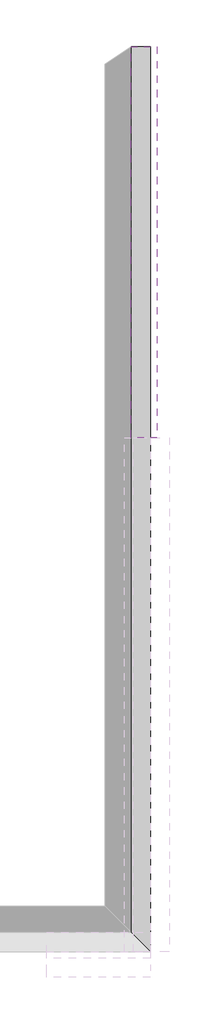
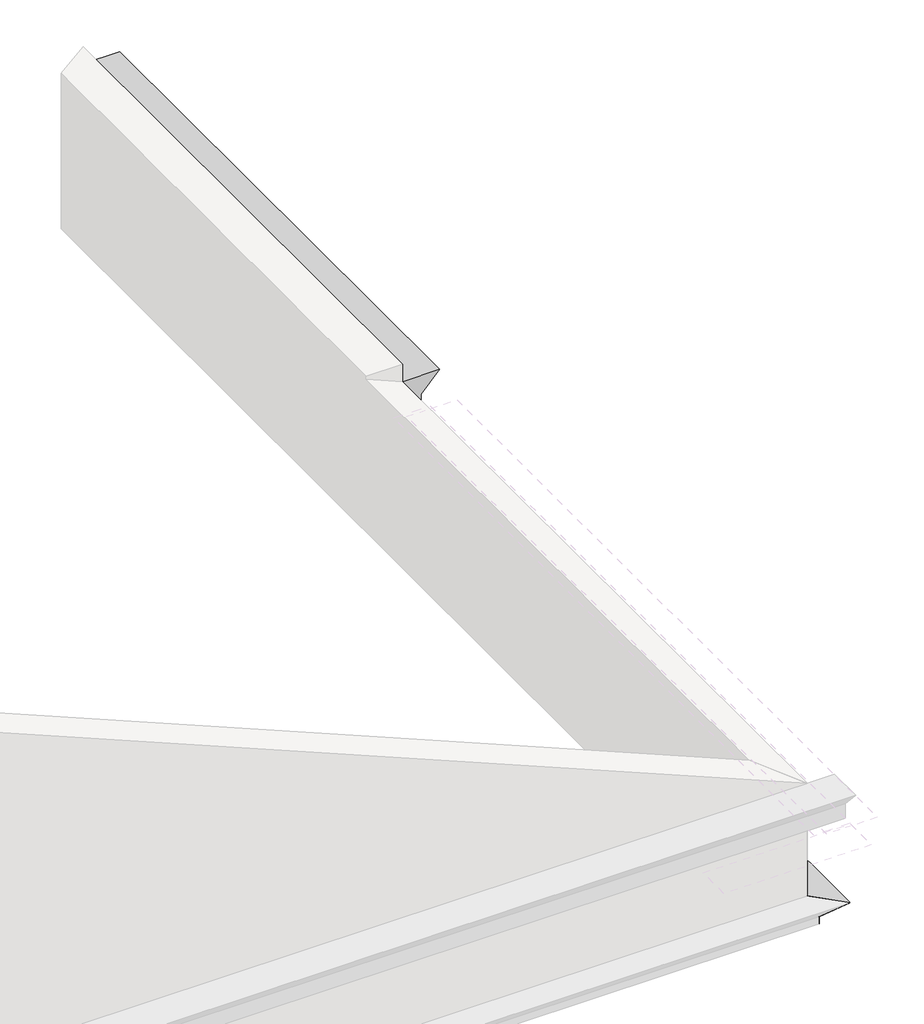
# One storey, part 3 of 3: 2 proxies.
"""IFC4 building model written with IfcOpenShell, lengths in millimetres."""

from ifc_helpers import new_model, si_unit, frame, origin, place, context, project, spatial, polyline, outline, extrude, faceted_brep, element, save

model = new_model("IFC4")

# Units and contexts
model_context = context("Model", 3, world=origin())
ifc_project = project(units=[si_unit("LENGTHUNIT", "METRE", prefix="MILLI")], contexts=[model_context])

# Site, building, storey
site = spatial("IfcSite", under=ifc_project)
building = spatial("IfcBuilding", under=site)
storey = spatial("IfcBuildingStorey", under=building, Name="T.O. Portico Columns", Elevation=12496.8)

# Proxies
placement = place(None, origin())
element("IfcBuildingElementProxy", 1, Name="Lower Cornice", ObjectType="Lower Cornice", at=placement, inside=storey, context=model_context, shape_type="Brep", body=[
    faceted_brep([(19935.0482268, -43221.9516264, 12954.0), (19477.8482268, -42764.7516264, 12954.0), (19477.8482268, -42764.7516264, 12496.8), (19604.8482268, -42891.7516264, 12496.8), (19604.8482268, -42891.7516264, 12623.8), (19935.0482268, -21864.256103, 12954.0), (19604.8482268, -21864.256103, 12623.8), (19604.8482268, -21864.256103, 12496.8), (19477.8482268, -21864.256103, 12496.8), (19477.8482268, -21864.256103, 12954.0)], [[[0, 1, 2, 3, 4]], [[5, 6, 7, 8, 9]], [[1, 0, 5, 9]], [[2, 1, 9, 8]], [[3, 2, 8, 7]], [[4, 3, 7, 6]], [[0, 4, 6, 5]]]),
])
element("IfcBuildingElementProxy", 2, Name="Upper Cornice", ObjectType="Upper Cornice", at=placement, inside=storey, context=model_context, shape_type="SweptSolid", body=[
    extrude(outline(polyline([(14935.2, 20087.4482268), (14935.2, 19477.8482268), (14351.0, 19477.8482268), (14351.0, 19782.6482268), (14605.0, 19782.6482268), (14935.2, 20087.4482268)])), frame((0.0, -31091.880615, 0.0), z_axis=(0.0, 1.0, 0.0), x_axis=(0.0, 0.0, 1.0)), (0.0, 0.0, 1.0), 9227.624512),
])

save(model, "model.ifc")
